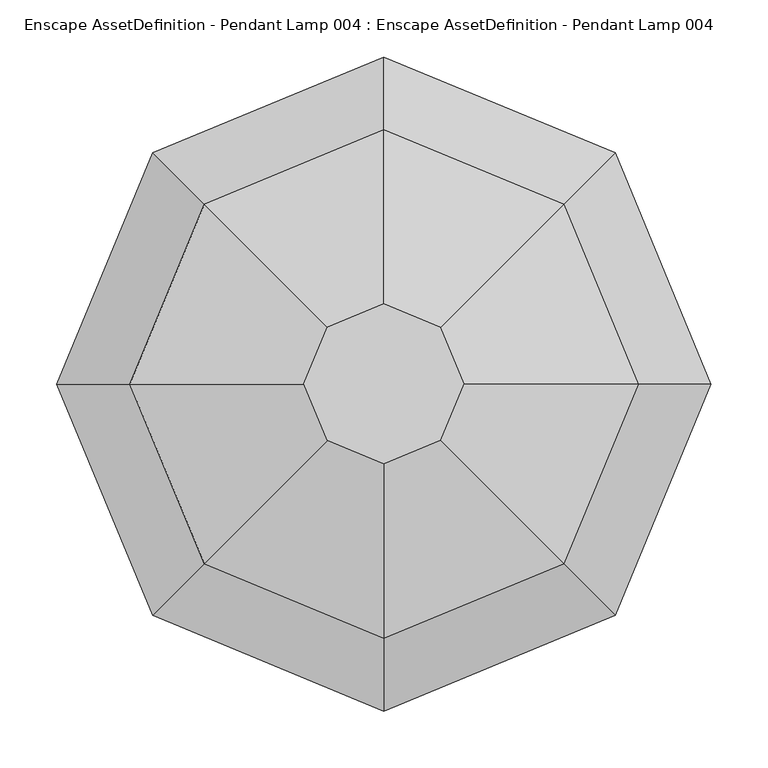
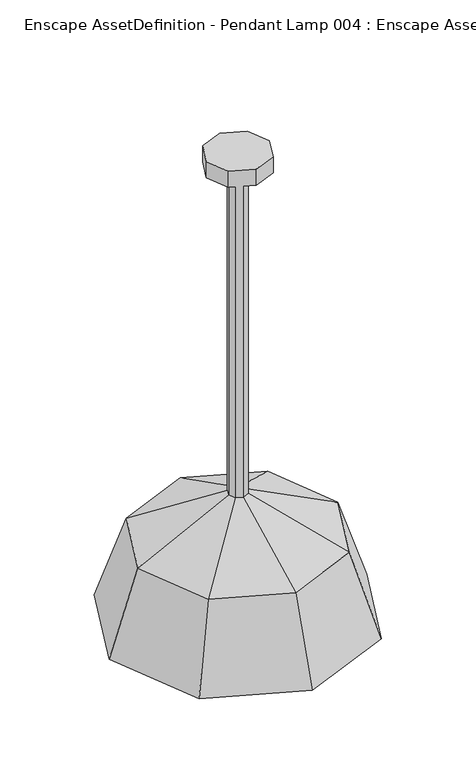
"""IFC4 building model written with IfcOpenShell, lengths in millimetres: geographic element geometry, Enscape AssetDefinition - Pendant Lamp 004 : Enscape AssetDefinition - Pendant Lamp 004."""

from ifc_helpers import new_model, si_unit, origin, place, context, project, spatial, triangles, source, transform, mapped, element, save


def enscape_assetdefinition_pendant_lamp_004_enscape_82bf42aa(model_context):
    return source(origin(), model_context, "Body", "Tessellation", [
        triangles([(287.7442097, 0.0, -1100.0000084), (9.3e-06, -8.8e-06, -1100.0000084), (203.465851, -203.4659237, -1100.0000084), (223.6443069, -3e-07, -907.7036791), (20.9535925, -8.5e-06, -804.5224771), (158.1403836, -158.14042, -907.7036791), (3.4e-06, -287.7442097, -1100.0000084), (14.8164262, -14.8164364, -804.5224771), (3.9e-06, -223.6442887, -907.7036791), (2.8e-06, -20.9535925, -804.5224771), (14.8164262, -14.8164364, -37.505471), (-203.4658329, -203.4659237, -1100.0000084), (-287.7442097, -2.52e-05, -1100.0000084), (-223.6443069, -1.98e-05, -907.7036791), (-158.1403655, -158.14042, -907.7036791), (-14.816416, -14.8164364, -804.5224771), (2.8e-06, -20.9535925, -37.505471), (-14.816416, -14.8164364, -37.505471), (-158.1403836, 158.1404018, -907.7036791), (-203.4658874, 203.4658874, -1100.0000084), (-8.6e-06, 223.644325, -907.7036791), (-1.26e-05, 287.7442097, -1100.0000084), (-20.9535743, -1.03e-05, -804.5224771), (-20.9535743, -1.03e-05, -37.505471), (-14.816416, 14.816416, -804.5224771), (203.4658874, 203.4658874, -1100.0000084), (158.1404018, 158.1404018, -907.7036791), (1.6e-06, 20.9535743, -37.505471), (14.8164262, 14.816416, -804.5224771), (1.6e-06, 20.9535743, -804.5224771), (-14.816416, 14.816416, -37.505471), (-70.3979059, -9.9e-06, -37.505471), (-49.7788475, 49.7788565, -37.505471), (-49.7788475, 49.7788565, 0.0), (-70.3979059, -9.9e-06, 0.0), (-49.7788475, -49.7788747, -37.505471), (-49.7788475, -49.7788747, 0.0), (-4.4e-06, -70.3979286, -37.505471), (-4.4e-06, -70.3979286, 0.0), (49.778852, -49.7788747, 0.0), (70.3979468, -3.8e-06, 0.0), (70.3979468, -3.7e-06, -37.505471), (49.778852, -49.7788747, -37.505471), (49.778852, 49.7788565, 0.0), (-8.3e-06, 70.3979105, 0.0), (5.4e-06, -8.9e-06, 0.0), (14.8164262, 14.816416, -37.505471), (-8.3e-06, 70.3979105, -37.505471), (20.9535925, -8.5e-06, -37.505471), (49.778852, 49.7788565, -37.505471)], [[29, 28, 47], [47, 28, 48], [45, 34, 46], [48, 34, 45], [50, 48, 45], [49, 47, 50], [47, 48, 50], [44, 45, 46], [50, 45, 44], [42, 50, 44], [11, 49, 42], [49, 50, 42], [41, 44, 46], [42, 44, 41], [43, 42, 41], [17, 11, 43], [11, 42, 43], [40, 41, 46], [43, 41, 40], [39, 40, 46], [38, 43, 40], [38, 40, 39], [17, 43, 38], [18, 17, 38], [36, 38, 39], [18, 38, 36], [37, 39, 46], [36, 39, 37], [35, 37, 46], [34, 35, 46], [48, 33, 34], [33, 35, 34], [28, 33, 48], [32, 36, 37], [33, 32, 35], [32, 37, 35], [24, 18, 36], [24, 36, 32], [31, 24, 32], [28, 31, 33], [31, 32, 33], [29, 30, 28], [30, 31, 28], [27, 30, 29], [27, 21, 30], [26, 21, 27], [30, 25, 31], [25, 24, 31], [21, 25, 30], [25, 23, 24], [23, 18, 24], [21, 19, 25], [19, 23, 25], [26, 22, 21], [22, 19, 21], [22, 26, 2], [22, 20, 19], [20, 22, 2], [13, 20, 2], [19, 14, 23], [20, 13, 14], [20, 14, 19], [23, 16, 18], [16, 17, 18], [14, 16, 23], [16, 10, 17], [10, 11, 17], [14, 15, 16], [15, 10, 16], [13, 15, 14], [13, 12, 15], [12, 13, 2], [7, 12, 2], [15, 9, 10], [12, 7, 9], [12, 9, 15], [10, 8, 11], [8, 49, 11], [9, 8, 10], [8, 5, 49], [5, 29, 47], [5, 47, 49], [9, 6, 8], [6, 5, 8], [7, 6, 9], [7, 3, 6], [3, 7, 2], [6, 4, 5], [4, 27, 29], [4, 29, 5], [3, 4, 6], [3, 1, 4], [1, 26, 27], [1, 3, 2], [26, 1, 2], [1, 27, 4]]),
    ])


if __name__ == "__main__":
    model = new_model("IFC4")
    model_context = context("Model", 3, world=origin())
    ifc_project = project(units=[si_unit("LENGTHUNIT", "METRE", prefix="MILLI")], contexts=[model_context])
    site = spatial("IfcSite", under=ifc_project)
    building = spatial("IfcBuilding", under=site)
    placement = place(None, origin())
    enscape_assetdefinition_pendant_lamp_004_enscape_shape = enscape_assetdefinition_pendant_lamp_004_enscape_82bf42aa(model_context)
    element("IfcGeographicElement", 1, ObjectType="Enscape AssetDefinition - Pendant Lamp 004 : Enscape AssetDefinition - Pendant Lamp 004", at=placement, inside=building, context=model_context, shape_type="MappedRepresentation", body=[
        mapped(enscape_assetdefinition_pendant_lamp_004_enscape_shape, transform((0.0, 0.0, 0.0), x_axis=(1.0, 0.0, 0.0), y_axis=(0.0, 1.0, 0.0), z_axis=(0.0, 0.0, 1.0))),
    ])
    save(model, "model.ifc")
